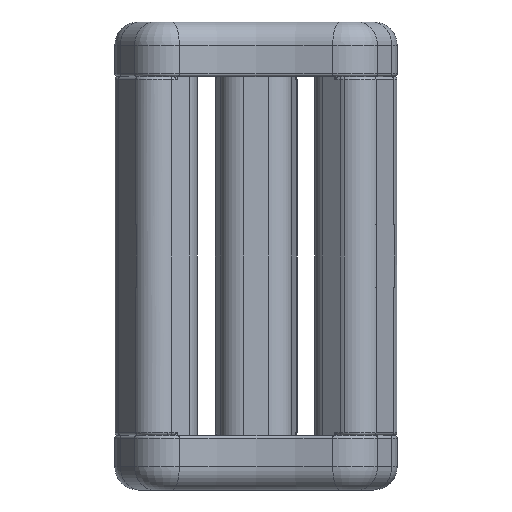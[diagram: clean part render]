
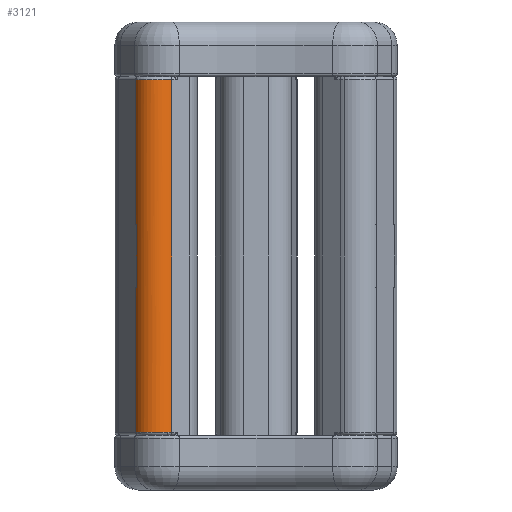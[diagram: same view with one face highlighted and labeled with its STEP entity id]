
A CAD part, front view. The second image highlights one B-rep face of the part: STEP entity #3121.
In plain terms, the highlighted cylindrical face has radius 7.5 mm (diameter 15 mm), a partial arc.
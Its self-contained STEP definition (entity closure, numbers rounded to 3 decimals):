
#112 = EDGE_CURVE ( 'NONE', #614, #1235, #6773, .T. ) ;
#194 = EDGE_LOOP ( 'NONE', ( #2773, #7121, #6533, #2377, #5381, #6186, #3938, #7499, #4689 ) ) ;
#440 = VERTEX_POINT ( 'NONE', #6049 ) ;
#487 = DIRECTION ( 'NONE',  ( 0., 0., 1. ) ) ;
#552 = DIRECTION ( 'NONE',  ( 0., 0., -1. ) ) ;
#614 = VERTEX_POINT ( 'NONE', #8141 ) ;
#742 = VECTOR ( 'NONE', #8278, 1000. ) ;
#809 = CARTESIAN_POINT ( 'NONE',  ( -13.15, 5., -56.5 ) ) ;
#1235 = VERTEX_POINT ( 'NONE', #809 ) ;
#1292 = CIRCLE ( 'NONE', #4645, 7.5 ) ;
#1382 = DIRECTION ( 'NONE',  ( 0., 0., 1. ) ) ;
#1420 = VECTOR ( 'NONE', #6554, 1000. ) ;
#1538 = AXIS2_PLACEMENT_3D ( 'NONE', #1876, #487, #7511 ) ;
#1675 = VECTOR ( 'NONE', #5088, 1000. ) ;
#1724 = VERTEX_POINT ( 'NONE', #7080 ) ;
#1876 = CARTESIAN_POINT ( 'NONE',  ( -5.65, 5., -56.5 ) ) ;
#1970 = EDGE_CURVE ( 'NONE', #2236, #1724, #3152, .T. ) ;
#1997 = CARTESIAN_POINT ( 'NONE',  ( -5.65, 5., -72.5 ) ) ;
#2029 = VERTEX_POINT ( 'NONE', #6863 ) ;
#2072 = DIRECTION ( 'NONE',  ( 1., 0., 0. ) ) ;
#2236 = VERTEX_POINT ( 'NONE', #5932 ) ;
#2237 = VERTEX_POINT ( 'NONE', #4087 ) ;
#2294 = CARTESIAN_POINT ( 'NONE',  ( -5.65, 12.5, -10. ) ) ;
#2357 = EDGE_CURVE ( 'NONE', #5808, #2029, #7137, .T. ) ;
#2377 = ORIENTED_EDGE ( 'NONE', *, *, #2988, .T. ) ;
#2480 = CIRCLE ( 'NONE', #1538, 7.5 ) ;
#2491 = CARTESIAN_POINT ( 'NONE',  ( -5.65, 5., 56.5 ) ) ;
#2704 = CYLINDRICAL_SURFACE ( 'NONE', #5452, 7.5 ) ;
#2773 = ORIENTED_EDGE ( 'NONE', *, *, #2357, .F. ) ;
#2988 = EDGE_CURVE ( 'NONE', #1235, #4896, #2480, .T. ) ;
#3071 = CARTESIAN_POINT ( 'NONE',  ( -12.972, 3.373, -56.5 ) ) ;
#3107 = AXIS2_PLACEMENT_3D ( 'NONE', #2491, #552, #4384 ) ;
#3121 = ADVANCED_FACE ( 'NONE', ( #7828 ), #2704, .T. ) ;
#3152 = LINE ( 'NONE', #4332, #7025 ) ;
#3155 = DIRECTION ( 'NONE',  ( 1., 0., 0. ) ) ;
#3198 = CARTESIAN_POINT ( 'NONE',  ( -5.65, 5., -10. ) ) ;
#3268 = LINE ( 'NONE', #6505, #1420 ) ;
#3504 = DIRECTION ( 'NONE',  ( 0., 0., 1. ) ) ;
#3545 = EDGE_CURVE ( 'NONE', #2236, #2237, #1292, .T. ) ;
#3709 = EDGE_CURVE ( 'NONE', #2237, #2029, #3268, .T. ) ;
#3878 = CARTESIAN_POINT ( 'NONE',  ( -5.65, 12.5, -72.5 ) ) ;
#3938 = ORIENTED_EDGE ( 'NONE', *, *, #1970, .F. ) ;
#4087 = CARTESIAN_POINT ( 'NONE',  ( -5.998, 12.492, 10. ) ) ;
#4332 = CARTESIAN_POINT ( 'NONE',  ( -5.65, 12.5, -72.5 ) ) ;
#4384 = DIRECTION ( 'NONE',  ( 1., 0., 0. ) ) ;
#4416 = CARTESIAN_POINT ( 'NONE',  ( -12.972, 3.373, -72.5 ) ) ;
#4544 = DIRECTION ( 'NONE',  ( 0., 0., 1. ) ) ;
#4553 = DIRECTION ( 'NONE',  ( 0., 0., 1. ) ) ;
#4645 = AXIS2_PLACEMENT_3D ( 'NONE', #5811, #4544, #5858 ) ;
#4689 = ORIENTED_EDGE ( 'NONE', *, *, #3709, .T. ) ;
#4896 = VERTEX_POINT ( 'NONE', #3071 ) ;
#4901 = AXIS2_PLACEMENT_3D ( 'NONE', #7414, #3504, #5443 ) ;
#5086 = DIRECTION ( 'NONE',  ( 0., 0., 1. ) ) ;
#5088 = DIRECTION ( 'NONE',  ( 0., 0., 1. ) ) ;
#5128 = LINE ( 'NONE', #3878, #1675 ) ;
#5200 = EDGE_CURVE ( 'NONE', #440, #4896, #7614, .T. ) ;
#5248 = EDGE_CURVE ( 'NONE', #614, #5808, #5128, .T. ) ;
#5381 = ORIENTED_EDGE ( 'NONE', *, *, #5200, .F. ) ;
#5390 = AXIS2_PLACEMENT_3D ( 'NONE', #3198, #1382, #3155 ) ;
#5443 = DIRECTION ( 'NONE',  ( -1., 0., 0. ) ) ;
#5452 = AXIS2_PLACEMENT_3D ( 'NONE', #1997, #4553, #2072 ) ;
#5798 = CIRCLE ( 'NONE', #3107, 7.5 ) ;
#5808 = VERTEX_POINT ( 'NONE', #2294 ) ;
#5811 = CARTESIAN_POINT ( 'NONE',  ( -5.65, 5., 10. ) ) ;
#5858 = DIRECTION ( 'NONE',  ( 1., 0., 0. ) ) ;
#5932 = CARTESIAN_POINT ( 'NONE',  ( -5.65, 12.5, 10. ) ) ;
#6049 = CARTESIAN_POINT ( 'NONE',  ( -12.972, 3.373, 56.5 ) ) ;
#6186 = ORIENTED_EDGE ( 'NONE', *, *, #6414, .T. ) ;
#6414 = EDGE_CURVE ( 'NONE', #440, #1724, #5798, .T. ) ;
#6505 = CARTESIAN_POINT ( 'NONE',  ( -5.998, 12.492, -15. ) ) ;
#6533 = ORIENTED_EDGE ( 'NONE', *, *, #112, .T. ) ;
#6554 = DIRECTION ( 'NONE',  ( 0., 0., -1. ) ) ;
#6773 = CIRCLE ( 'NONE', #4901, 7.5 ) ;
#6863 = CARTESIAN_POINT ( 'NONE',  ( -5.998, 12.492, -10. ) ) ;
#7025 = VECTOR ( 'NONE', #5086, 1000. ) ;
#7080 = CARTESIAN_POINT ( 'NONE',  ( -5.65, 12.5, 56.5 ) ) ;
#7121 = ORIENTED_EDGE ( 'NONE', *, *, #5248, .F. ) ;
#7137 = CIRCLE ( 'NONE', #5390, 7.5 ) ;
#7414 = CARTESIAN_POINT ( 'NONE',  ( -5.65, 5., -56.5 ) ) ;
#7499 = ORIENTED_EDGE ( 'NONE', *, *, #3545, .T. ) ;
#7511 = DIRECTION ( 'NONE',  ( -1., 0., 0. ) ) ;
#7614 = LINE ( 'NONE', #4416, #742 ) ;
#7828 = FACE_OUTER_BOUND ( 'NONE', #194, .T. ) ;
#8141 = CARTESIAN_POINT ( 'NONE',  ( -5.65, 12.5, -56.5 ) ) ;
#8278 = DIRECTION ( 'NONE',  ( 0., 0., -1. ) ) ;
